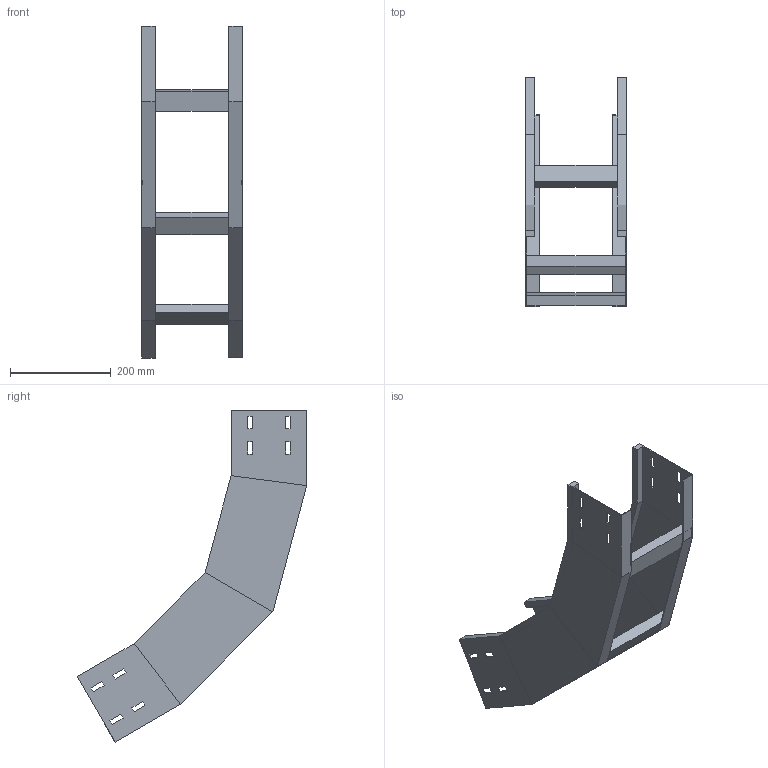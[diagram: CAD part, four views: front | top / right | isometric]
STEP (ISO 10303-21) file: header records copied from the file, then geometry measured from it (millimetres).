
FILE_DESCRIPTION (( 'STEP AP214' ), '1' );
FILE_NAME ('40J5F200.step', '2025-02-21T16:26:42', ( '' ), ( '' ), 'SwSTEP 2.0', 'SolidWorks 2023', '' );
FILE_SCHEMA (( 'AUTOMOTIVE_DESIGN' ));
Length unit declared in the file: millimetre
Products named in the file (3): LONGH.SALITA_60°_H150_R500; 40J5F200; TRAVERSINO_200
Assembly tree (5 placements, depth 2):
  40J5F200
    LONGH.SALITA_60°_H150_R500  x2
    TRAVERSINO_200  x3
Bounding box: 200 x 455.08 x 658.32 mm (x, y, z)
Volume: 1249120.4 mm3; surface area: 646299.3 mm2
Topology: 5 solids, 5 shells, 150 faces, 372 edges, 232 vertices
Faces by surface type: plane 150
Entity records: 2216 total; most frequent: CARTESIAN_POINT 372, ORIENTED_EDGE 360, DIRECTION 340, LINE 180, EDGE_CURVE 180, VECTOR 180, VERTEX_POINT 112, EDGE_LOOP 88
